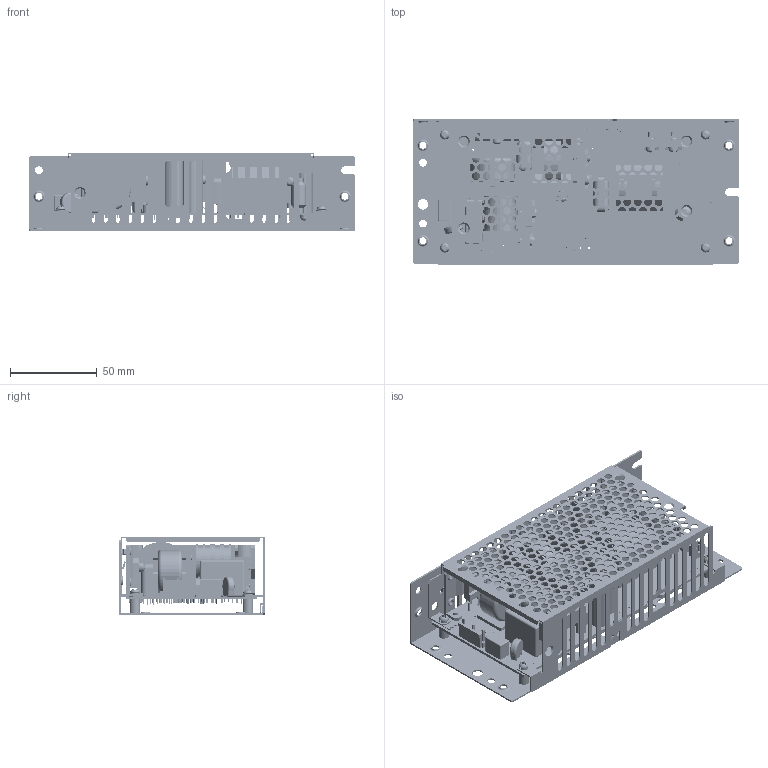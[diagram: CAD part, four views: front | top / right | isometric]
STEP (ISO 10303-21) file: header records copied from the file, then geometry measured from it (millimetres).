
FILE_DESCRIPTION (( 'STEP AP214' ), '1' );
FILE_NAME ('UZP-150-XX-JXE-K.STEP', '2017-10-31T00:55:20', ( '' ), ( '' ), 'SwSTEP 2.0', 'SolidWorks 2017', '' );
FILE_SCHEMA (( 'AUTOMOTIVE_DESIGN' ));
Length unit declared in the file: millimetre
Products named in the file (40): N_昗弨_M3亊10_3P彫; LF_TOKIN_SC22-05-70J; Q_東芝_TK35A08N1; T_標準_MT1675; C_忣鰱か筷ECWHA3C223B; D_新電元_D10X60B; C_偎藓輄35ZLH680MEFCT8_10亊23; M_3234-01-4-201A_放熱ﾌｨﾝ(DC); C_偎藓輄420BXW47MNPR (12.5亊30); PS3234_PFC僼傿儞ASS''Y; C_日通工_FPA22W225KA9R-C4; B_TDK_HF70BB4.5X5X1.6; F_大東通信機_BL100(T); N_昗弨_M3亊8_3P彫; ZNR_忣鰱か筷ERZV10D471CS; N_昗弨_M3亊5_3P彫; CN_JST_B4B-XH-A; TH_村田SS_PTFM04BD222Q2N34B0; L_大江_LT5005A; Q_ｵﾝｾﾐ_NDF11N50ZH_ﾌｫｰﾐﾝｸﾞ; C_岡谷_LE105-MX-C3.5; VR_コパル_FT-63ETV1K; Q_東芝_TK31J60W; FG_協伸工業_TP00602-21; D_菾娕RFU10TF6S; PCB_3381P1B; M_3234-01-4-202D_放熱ﾌｨﾝ(PFC); CN_JST_B2B-XH-A; CN_JST_B8P-VH; M_3234-01-3-204B カバー; UZP-150-XX-JXE-K; CN_JST_B3P5-VH; M_3234-01-3-203C シャーシ; N_昗弨_M3亊6_3P彫; PS3234_DC僼傿儞ASS''Y; L_標準_LT1457E; B_TDK_HF70BB3.5X3X1.3; LF_TOKIN_SS26V_タイプ
Assembly tree (52 placements, depth 3):
  UZP-150-XX-JXE-K
    PCB_3381P1B
    FG_協伸工業_TP00602-21
    VR_コパル_FT-63ETV1K
    C_岡谷_LE105-MX-C3.5
    L_大江_LT5005A
    CN_JST_B4B-XH-A
    ZNR_忣鰱か筷ERZV10D471CS
    F_大東通信機_BL100(T)
    C_日通工_FPA22W225KA9R-C4
    C_偎藓輄420BXW47MNPR (12.5亊30)  x2
    C_偎藓輄35ZLH680MEFCT8_10亊23  x2
    C_忣鰱か筷ECWHA3C223B
    T_標準_MT1675
    LF_TOKIN_SC22-05-70J
    LF_TOKIN_SS26V_タイプ
    L_標準_LT1457E
    N_昗弨_M3亊6_3P彫  x6
    CN_JST_B3P5-VH
    CN_JST_B8P-VH
    PS3234_PFC僼傿儞ASS''Y
      M_3234-01-4-202D_放熱ﾌｨﾝ(PFC)
      D_菾娕RFU10TF6S
      Q_東芝_TK31J60W
      Q_ｵﾝｾﾐ_NDF11N50ZH_ﾌｫｰﾐﾝｸﾞ
      Q_ｵﾝｾﾐ_NDF11N50ZH_ﾌｫｰﾐﾝｸﾞ
      TH_村田SS_PTFM04BD222Q2N34B0
      N_昗弨_M3亊5_3P彫
      N_昗弨_M3亊8_3P彫  x4
      B_TDK_HF70BB4.5X5X1.6
    PS3234_DC僼傿儞ASS''Y
      M_3234-01-4-201A_放熱ﾌｨﾝ(DC)
      D_新電元_D10X60B
      Q_東芝_TK35A08N1
      Q_東芝_TK35A08N1
      N_昗弨_M3亊10_3P彫  x2
      N_昗弨_M3亊8_3P彫
      B_TDK_HF70BB3.5X3X1.3  x2
    M_3234-01-3-203C シャーシ
    M_3234-01-3-204B カバー
    CN_JST_B2B-XH-A
Bounding box: 188 x 83.8 x 45 mm (x, y, z)
Volume: 149915.5 mm3; surface area: 159026.6 mm2
Topology: 96 solids, 96 shells, 3637 faces, 9814 edges, 6445 vertices
Faces by surface type: cylinder 1841, plane 1614, torus 104, cone 52, sphere 26
Entity records: 116763 total; most frequent: DIRECTION 18836, CARTESIAN_POINT 18752, ORIENTED_EDGE 17660, EDGE_CURVE 8830, AXIS2_PLACEMENT_3D 6841, VERTEX_POINT 5815, VECTOR 5154, LINE 5154
